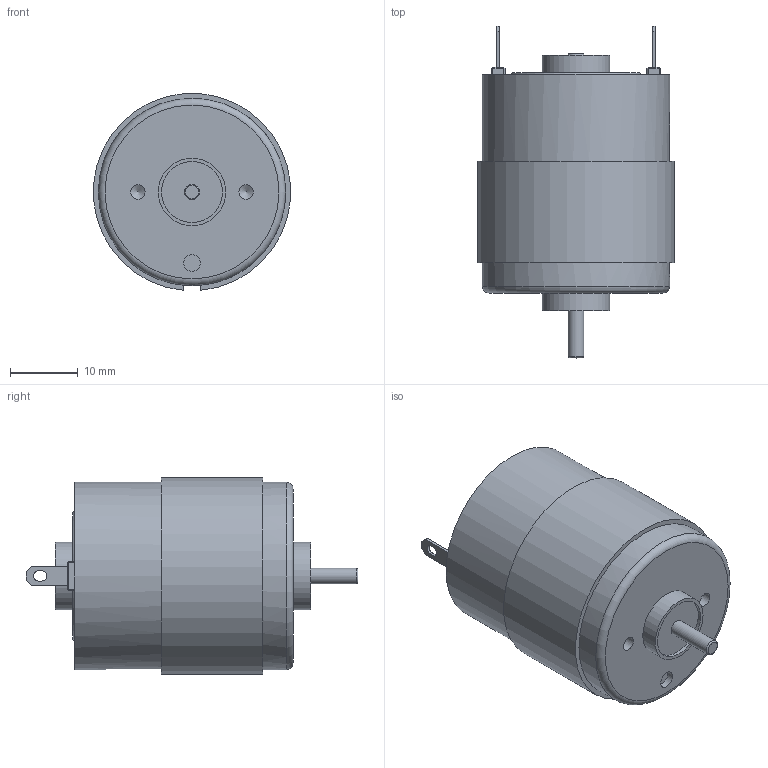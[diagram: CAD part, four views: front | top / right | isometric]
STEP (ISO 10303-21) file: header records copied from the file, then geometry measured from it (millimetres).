
FILE_DESCRIPTION(/* description */ (''),/* implementation_level */ '2;1');
FILE_NAME(/* name */ 'TP-2932#.stp',/* time_stamp */ '2024-06-07T13:20:25+09:00',/* author */ ('user'),/* organization */ (''),/* preprocessor_version */ 'ST-DEVELOPER v20',/* originating_system */ 'Autodesk Inventor 2024',/* authorisation */ '');
FILE_SCHEMA (('AUTOMOTIVE_DESIGN { 1 0 10303 214 3 1 1 }'));
Length unit declared in the file: millimetre
Products named in the file (1): TP-2932#(RS-365PH)
Bounding box: 29.09 x 49.1 x 29.09 mm (x, y, z)
Volume: 20741.8 mm3; surface area: 4763.3 mm2
Topology: 1 solids, 1 shells, 114 faces, 244 edges, 154 vertices
Faces by surface type: plane 76, cylinder 32, torus 4, cone 2
Full cylindrical faces by diameter (mm): 2 x3, 2.113 x2, 2.3 x2, 2.5 x5, 9 x2, 10 x2, 19 x1, 26.7 x1, 27.7 x1
Entity records: 3185 total; most frequent: DIRECTION 552, CARTESIAN_POINT 511, ORIENTED_EDGE 484, EDGE_CURVE 242, AXIS2_PLACEMENT_3D 195, LINE 162, VECTOR 162, VERTEX_POINT 154
